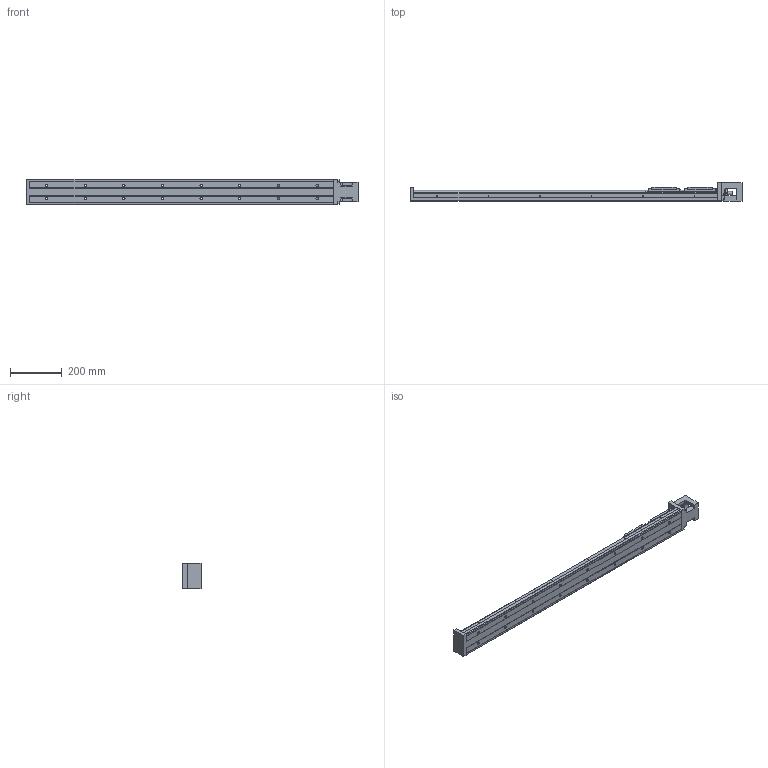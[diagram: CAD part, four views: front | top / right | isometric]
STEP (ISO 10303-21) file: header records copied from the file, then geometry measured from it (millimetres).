
FILE_DESCRIPTION( ( '' ), '1' );
FILE_NAME( '//partserver001.servicenet/client_exchange/iodir/jobs/output/wkb20113471_no7/STEP/kk10020p_1180a2_f0_2_03.stp', '2009-11-12T12:45:10', ( '' ), ( '' ), ' ', ' ', ' ' );
FILE_SCHEMA( ( 'CONFIG_CONTROL_DESIGN' ) );
Length unit declared in the file: millimetre
Products named in the file (4): 1; 2; 3; 4
Bounding box: 1289 x 72 x 100 mm (x, y, z)
Volume: 3451069.1 mm3; surface area: 599845.2 mm2
Topology: 4 solids, 4 shells, 655 faces, 1674 edges, 1042 vertices
Faces by surface type: plane 260, cylinder 235, cone 144, torus 16
Entity records: 19716 total; most frequent: DIRECTION 3544, CARTESIAN_POINT 3375, ORIENTED_EDGE 3212, EDGE_CURVE 1606, AXIS2_PLACEMENT_3D 1283, VERTEX_POINT 1042, LINE 978, VECTOR 978
